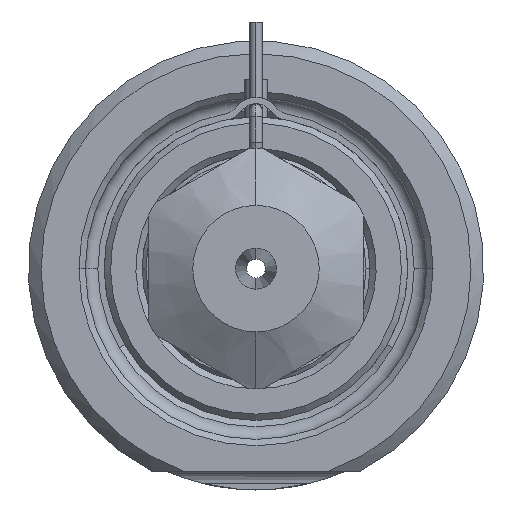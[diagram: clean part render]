
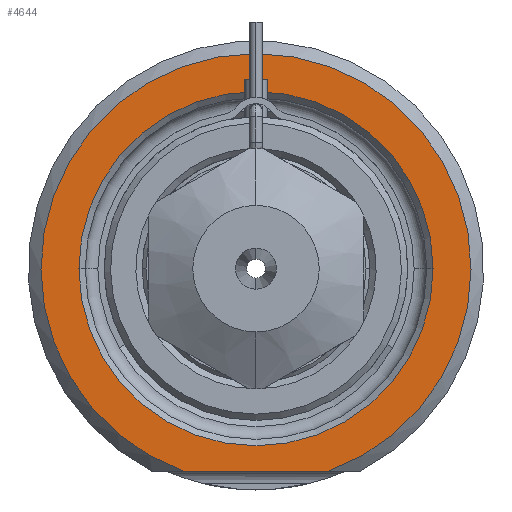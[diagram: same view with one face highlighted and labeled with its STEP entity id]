
A CAD part, front view. The second image highlights one B-rep face of the part: STEP entity #4644.
In plain terms, the highlighted planar face has unit normal (0, -1, 0).
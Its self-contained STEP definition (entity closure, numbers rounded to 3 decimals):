
#1367=DIRECTION('',(1.,0.,0.));
#1368=VECTOR('',#1367,11.489);
#1369=CARTESIAN_POINT('',(-5.745,0.,-16.));
#1370=LINE('',#1369,#1368);
#1371=CARTESIAN_POINT('',(0.,0.,0.));
#1372=DIRECTION('',(0.,1.,0.));
#1373=DIRECTION('',(-1.,0.,0.));
#1374=AXIS2_PLACEMENT_3D('',#1371,#1372,#1373);
#1376=CARTESIAN_POINT('',(0.,0.,0.));
#1377=DIRECTION('',(0.,1.,0.));
#1378=DIRECTION('',(1.,0.,0.));
#1379=AXIS2_PLACEMENT_3D('',#1376,#1377,#1378);
#1483=CARTESIAN_POINT('',(0.,0.,0.));
#1484=DIRECTION('',(0.,-1.,0.));
#1485=DIRECTION('',(0.338,0.,-0.941));
#1486=AXIS2_PLACEMENT_3D('',#1483,#1484,#1485);
#2540=CARTESIAN_POINT('',(-14.,0.,0.));
#2541=CARTESIAN_POINT('',(14.,0.,0.));
#2542=VERTEX_POINT('',#2540);
#2543=VERTEX_POINT('',#2541);
#2580=CARTESIAN_POINT('',(-5.745,0.,-16.));
#2581=CARTESIAN_POINT('',(5.745,0.,-16.));
#2582=VERTEX_POINT('',#2580);
#2583=VERTEX_POINT('',#2581);
#4628=CARTESIAN_POINT('',(0.,0.,0.));
#4629=DIRECTION('',(0.,-1.,0.));
#4630=DIRECTION('',(1.,0.,0.));
#4631=AXIS2_PLACEMENT_3D('',#4628,#4629,#4630);
#4632=PLANE('',#4631);
#4634=ORIENTED_EDGE('',*,*,#4633,.F.);
#4636=ORIENTED_EDGE('',*,*,#4635,.F.);
#4637=EDGE_LOOP('',(#4634,#4636));
#4638=FACE_OUTER_BOUND('',#4637,.F.);
#4640=ORIENTED_EDGE('',*,*,#4639,.F.);
#4641=ORIENTED_EDGE('',*,*,#4618,.F.);
#4642=EDGE_LOOP('',(#4640,#4641));
#4643=FACE_BOUND('',#4642,.F.);
#4644=ADVANCED_FACE('',(#4638,#4643),#4632,.T.);
#1375=CIRCLE('',#1374,14.);
#1380=CIRCLE('',#1379,14.);
#1487=CIRCLE('',#1486,17.);
#4618=EDGE_CURVE('',#2543,#2542,#1380,.T.);
#4633=EDGE_CURVE('',#2582,#2583,#1370,.T.);
#4635=EDGE_CURVE('',#2583,#2582,#1487,.T.);
#4639=EDGE_CURVE('',#2542,#2543,#1375,.T.);
